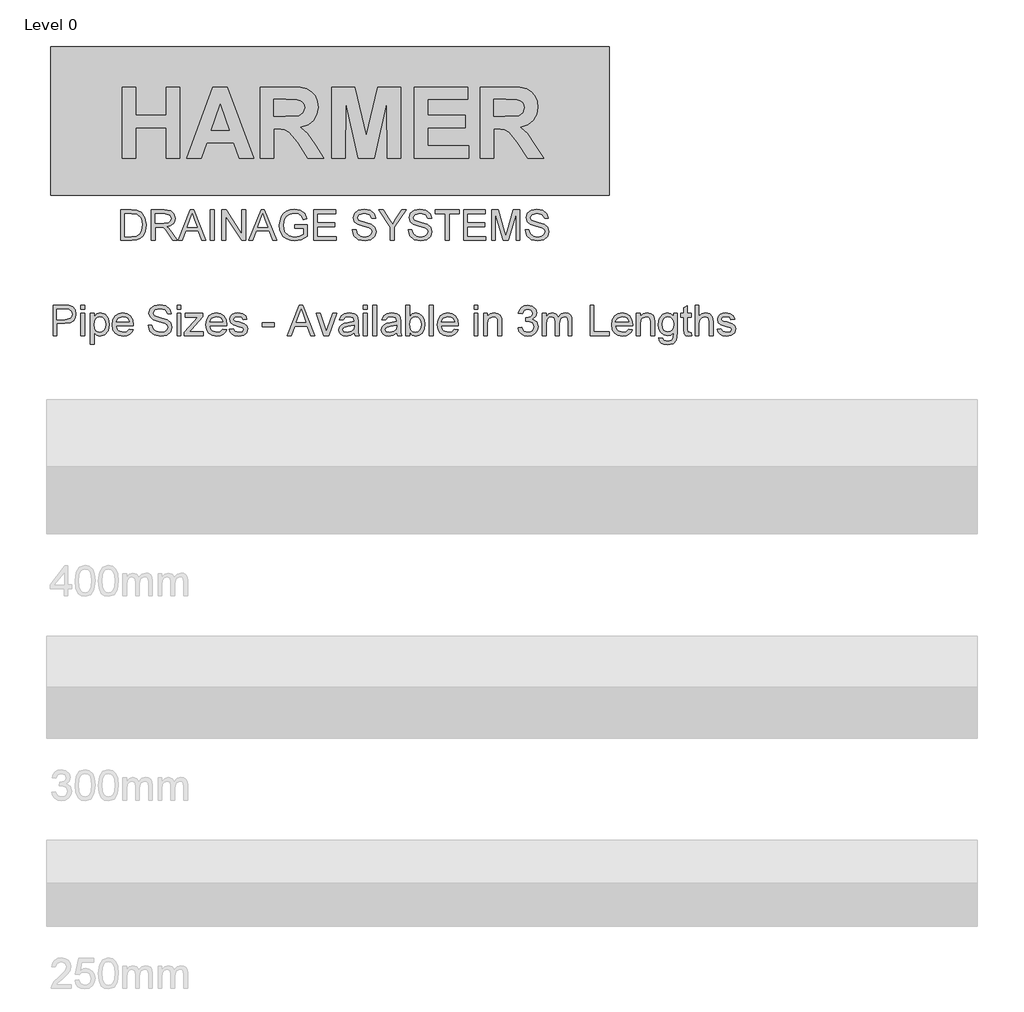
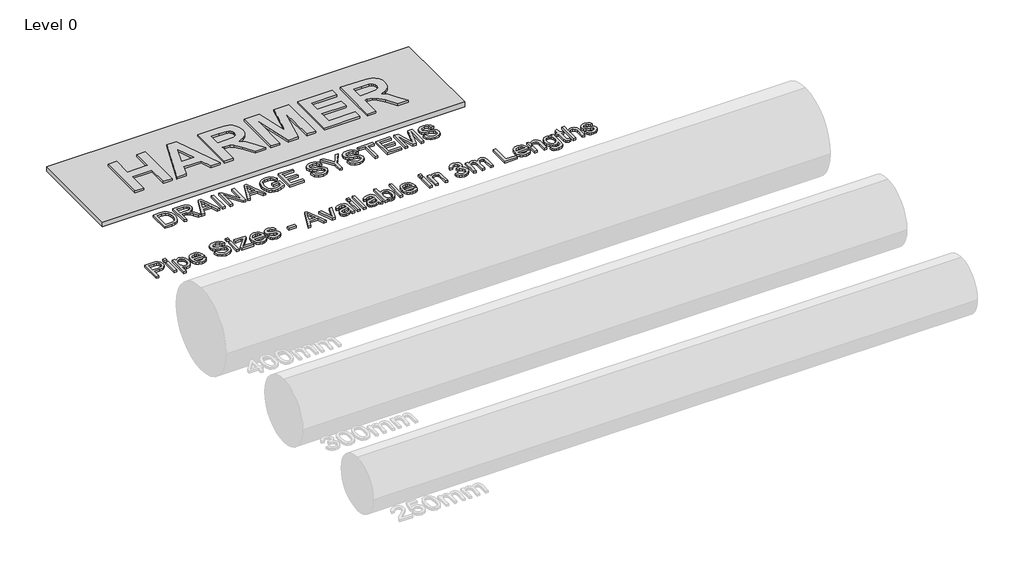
# One storey, part 3 of 3: 4 proxies.
"""IFC4 building model written with IfcOpenShell, lengths in millimetres."""

from ifc_helpers import new_model, si_unit, origin, origin_with_axes, place, context, project, spatial, polyline, outline, extrude, transform, mapped, element, save
from components import generic_models_ec3af60e

model = new_model("IFC4")

# Units and contexts
model_context = context("Model", 3, world=origin())
ifc_project = project(units=[si_unit("LENGTHUNIT", "METRE", prefix="MILLI")], contexts=[model_context])

# Site, building, storey
site = spatial("IfcSite", under=ifc_project)
building = spatial("IfcBuilding", under=site)
storey = spatial("IfcBuildingStorey", under=building, Name="Level 0", Elevation=0.0)

# Proxies
placement = place(None, origin())
generic_models_shape = generic_models_ec3af60e(model_context)
element("IfcBuildingElementProxy", 1, Name="Harmer Logo : Harmer Logo", ObjectType="Harmer Logo : Harmer Logo", at=placement, inside=storey, context=model_context, shape_type="MappedRepresentation", body=[
    mapped(generic_models_shape, transform((0.0, 0.0, 0.0), x_axis=(1.0, 0.0, 0.0), y_axis=(0.0, 1.0, 0.0), z_axis=(0.0, 0.0, 1.0))),
])
element("IfcBuildingElementProxy", 2, Name="100mm Arial", ObjectType="100mm Arial", at=placement, inside=storey, context=model_context, shape_type="SweptSolid", body=[
    extrude(outline(polyline([(-6212.3210968, 2433.2356144), (-6212.3210968, 2531.6971529), (-6175.8307122, 2531.6971529), (-6161.1191737, 2530.7596529), (-6149.1600391, 2526.1562875), (-6141.4076353, 2516.6370567), (-6138.474943, 2503.211576), (-6140.4551112, 2491.6070087), (-6146.395616, 2481.9375375), (-6157.5043901, 2475.4110952), (-6174.989366, 2473.2356144), (-6200.0134045, 2473.2356144), (-6200.0134045, 2433.2356144), (-6212.3210968, 2433.2356144)]), holes=[polyline([(-6200.0134045, 2485.5433067), (-6174.2682122, 2485.5433067), (-6156.1432122, 2490.0625375), (-6152.1227795, 2495.5012394), (-6150.7826353, 2502.7788837), (-6153.943693, 2512.9711914), (-6162.2489814, 2518.5481144), (-6174.5566737, 2519.3894606), (-6200.0134045, 2519.3894606), (-6200.0134045, 2485.5433067)])]), origin_with_axes(), (0.0, 0.0, 1.0), 10.0),
    extrude(outline(polyline([(-6123.0903276, 2433.2356144), (-6123.0903276, 2505.5433067), (-6110.7826353, 2505.5433067), (-6110.7826353, 2433.2356144), (-6123.0903276, 2433.2356144)])), origin_with_axes(), (0.0, 0.0, 1.0), 10.0),
    extrude(outline(polyline([(-6123.0903276, 2519.3894606), (-6123.0903276, 2531.6971529), (-6110.7826353, 2531.6971529), (-6110.7826353, 2519.3894606), (-6123.0903276, 2519.3894606)])), origin_with_axes(), (0.0, 0.0, 1.0), 10.0),
    extrude(outline(polyline([(-6092.3210968, 2405.5433067), (-6092.3210968, 2505.5433067), (-6080.0134045, 2505.5433067), (-6080.0134045, 2493.475999), (-6071.5037891, 2503.680326), (-6060.0134045, 2507.0817683), (-6044.412443, 2502.3221529), (-6034.2201353, 2488.9086914), (-6030.7826353, 2469.9423452), (-6034.6648468, 2450.0024414), (-6045.9388853, 2436.4207106), (-6061.5037891, 2431.6971529), (-6072.2129237, 2434.8582106), (-6080.0134045, 2442.850999), (-6080.0134045, 2405.5433067), (-6092.3210968, 2405.5433067)]), holes=[polyline([(-6080.0134045, 2468.8125375), (-6078.6822747, 2457.7788837), (-6074.6888853, 2450.0625375), (-6068.7964574, 2445.5192683), (-6061.7682122, 2444.0048452), (-6054.6257843, 2445.5733548), (-6048.583116, 2450.2788837), (-6044.4635247, 2458.2776817), (-6043.0903276, 2469.725999), (-6044.4304718, 2480.6995567), (-6048.4509045, 2488.524076), (-6054.334318, 2493.211576), (-6061.2634045, 2494.774076), (-6068.2195343, 2493.1124173), (-6074.3283083, 2488.1274414), (-6078.5921305, 2479.9753981), (-6080.0134045, 2468.8125375)])]), origin_with_axes(), (0.0, 0.0, 1.0), 10.0),
    extrude(outline(polyline([(-5966.3114814, 2454.774076), (-5954.2441737, 2453.2356144), (-5958.5921305, 2444.1430664), (-5965.5302314, 2437.3461914), (-5974.9022266, 2433.1094125), (-5986.551866, 2431.6971529), (-6000.9929718, 2434.1340519), (-6012.1047507, 2441.444749), (-6019.1900872, 2453.1544846), (-6021.551866, 2468.788499), (-6019.1660487, 2484.9483548), (-6012.0085968, 2497.0336914), (-6001.0470583, 2504.569749), (-5987.2489814, 2507.0817683), (-5973.880592, 2504.5757587), (-5963.1985007, 2497.0577298), (-5956.1942939, 2484.9964317), (-5953.8595583, 2468.8606144), (-5953.9316737, 2465.5433067), (-6009.2441737, 2465.5433067), (-6007.1137651, 2456.3305664), (-6002.1648468, 2449.5577298), (-5986.3114814, 2444.0048452), (-5974.2441737, 2446.5769606), (-5966.3114814, 2454.774076)]), holes=[polyline([(-6009.2441737, 2477.850999), (-5966.1672507, 2477.850999), (-5971.0951353, 2489.0048452), (-5978.270616, 2493.3317683), (-5987.2970583, 2494.774076), (-6002.4533083, 2490.1707106), (-6009.2441737, 2477.850999)])]), origin_with_axes(), (0.0, 0.0, 1.0), 10.0),
    extrude(outline(polyline([(-5906.1672507, 2467.0817683), (-5893.8595583, 2467.0817683), (-5889.8932122, 2454.7620567), (-5880.2057122, 2446.9735952), (-5865.4460968, 2444.0048452), (-5852.5855199, 2446.2524414), (-5844.2802314, 2452.430326), (-5841.551866, 2460.6875375), (-5843.5951353, 2468.367826), (-5851.9605199, 2473.9567683), (-5869.881193, 2478.6562875), (-5889.1720583, 2484.725999), (-5899.6408083, 2493.8846529), (-5903.0903276, 2506.1202298), (-5898.8235007, 2520.0505183), (-5886.3595583, 2529.882249), (-5868.114366, 2533.2356144), (-5848.6432122, 2529.725999), (-5835.662443, 2519.413499), (-5830.7826353, 2504.0048452), (-5843.0903276, 2504.0048452), (-5850.0614814, 2516.649076), (-5867.6335968, 2520.9279221), (-5885.2537891, 2516.6971529), (-5890.7826353, 2506.4808067), (-5886.864366, 2497.9471529), (-5866.7682122, 2491.0721529), (-5844.989366, 2484.8942683), (-5833.0783083, 2474.9183067), (-5829.2441737, 2461.0000375), (-5833.6552314, 2446.2764798), (-5846.3475391, 2435.5312875), (-5864.9653276, 2431.6971529), (-5886.9485007, 2435.8317683), (-5900.8547507, 2448.2836914), (-5906.1672507, 2467.0817683)])), origin_with_axes(), (0.0, 0.0, 1.0), 10.0),
    extrude(outline(polyline([(-5812.3210968, 2433.2356144), (-5812.3210968, 2505.5433067), (-5800.0134045, 2505.5433067), (-5800.0134045, 2433.2356144), (-5812.3210968, 2433.2356144)])), origin_with_axes(), (0.0, 0.0, 1.0), 10.0),
    extrude(outline(polyline([(-5812.3210968, 2519.3894606), (-5812.3210968, 2531.6971529), (-5800.0134045, 2531.6971529), (-5800.0134045, 2519.3894606), (-5812.3210968, 2519.3894606)])), origin_with_axes(), (0.0, 0.0, 1.0), 10.0),
    extrude(outline(polyline([(-5789.2441737, 2433.2356144), (-5789.2441737, 2444.8221529), (-5746.7682122, 2493.2356144), (-5759.3403276, 2493.2356144), (-5786.1672507, 2493.2356144), (-5786.1672507, 2505.5433067), (-5729.2441737, 2505.5433067), (-5729.2441737, 2495.086576), (-5766.912443, 2452.1298452), (-5772.6816737, 2445.5433067), (-5758.4509045, 2445.5433067), (-5727.7057122, 2445.5433067), (-5727.7057122, 2433.2356144), (-5789.2441737, 2433.2356144)])), origin_with_axes(), (0.0, 0.0, 1.0), 10.0),
    extrude(outline(polyline([(-5664.7730199, 2454.774076), (-5652.7057122, 2453.2356144), (-5657.0536689, 2444.1430664), (-5663.9917699, 2437.3461914), (-5673.3637651, 2433.1094125), (-5685.0134045, 2431.6971529), (-5699.4545103, 2434.1340519), (-5710.5662891, 2441.444749), (-5717.6516257, 2453.1544846), (-5720.0134045, 2468.788499), (-5717.6275872, 2484.9483548), (-5710.4701353, 2497.0336914), (-5699.5085968, 2504.569749), (-5685.7105199, 2507.0817683), (-5672.3421305, 2504.5757587), (-5661.6600391, 2497.0577298), (-5654.6558324, 2484.9964317), (-5652.3210968, 2468.8606144), (-5652.3932122, 2465.5433067), (-5707.7057122, 2465.5433067), (-5705.5753035, 2456.3305664), (-5700.6263853, 2449.5577298), (-5684.7730199, 2444.0048452), (-5672.7057122, 2446.5769606), (-5664.7730199, 2454.774076)]), holes=[polyline([(-5707.7057122, 2477.850999), (-5664.6287891, 2477.850999), (-5669.5566737, 2489.0048452), (-5676.7321545, 2493.3317683), (-5685.7585968, 2494.774076), (-5700.9148468, 2490.1707106), (-5707.7057122, 2477.850999)])]), origin_with_axes(), (0.0, 0.0, 1.0), 10.0),
    extrude(outline(polyline([(-5644.6287891, 2454.774076), (-5632.3210968, 2456.3125375), (-5626.6239814, 2447.1779221), (-5613.5710968, 2444.0048452), (-5601.0230199, 2446.913499), (-5596.9364814, 2453.7404221), (-5601.0470583, 2459.2692683), (-5613.7153276, 2462.7788837), (-5632.2489814, 2468.8005183), (-5640.3379237, 2475.8317683), (-5643.0903276, 2485.7596529), (-5640.8787891, 2494.930326), (-5634.8451353, 2501.9375375), (-5627.020616, 2505.5793644), (-5616.4316737, 2507.0817683), (-5601.4557122, 2504.6659029), (-5591.9364814, 2498.1274414), (-5587.7057122, 2487.0817683), (-5600.0134045, 2485.5433067), (-5604.6408083, 2492.3341721), (-5615.4701353, 2494.774076), (-5627.2489814, 2492.4423452), (-5630.7826353, 2487.0096529), (-5629.3162891, 2483.4279221), (-5624.724943, 2480.711576), (-5614.1239814, 2478.0913837), (-5596.0590776, 2472.2981144), (-5587.6696545, 2465.7356144), (-5584.6287891, 2455.038499), (-5588.1985007, 2443.2596529), (-5598.4989814, 2434.7139798), (-5613.739366, 2431.6971529), (-5626.1492218, 2433.1514798), (-5635.2057122, 2437.5144606), (-5641.2513853, 2444.7380183), (-5644.6287891, 2454.774076)])), origin_with_axes(), (0.0, 0.0, 1.0), 10.0),
    extrude(outline(polyline([(-5538.474943, 2462.4663837), (-5538.474943, 2474.774076), (-5500.0134045, 2474.774076), (-5500.0134045, 2462.4663837), (-5538.474943, 2462.4663837)])), origin_with_axes(), (0.0, 0.0, 1.0), 10.0),
    extrude(outline(polyline([(-5457.6335968, 2433.2356144), (-5418.3307122, 2531.6971529), (-5407.849943, 2531.6971529), (-5368.5470583, 2433.2356144), (-5381.551866, 2433.2356144), (-5392.8259045, 2464.0048452), (-5433.3787891, 2464.0048452), (-5444.6287891, 2433.2356144), (-5457.6335968, 2433.2356144)]), holes=[polyline([(-5428.8595583, 2476.3125375), (-5397.3210968, 2476.3125375), (-5406.1912891, 2500.5192683), (-5413.0903276, 2519.3894606), (-5419.2201353, 2502.6346529), (-5428.8595583, 2476.3125375)])]), origin_with_axes(), (0.0, 0.0, 1.0), 10.0),
    extrude(outline(polyline([(-5339.1960968, 2433.2356144), (-5364.6287891, 2505.5433067), (-5351.599943, 2505.5433067), (-5336.1912891, 2462.225999), (-5331.551866, 2447.6586914), (-5327.0085968, 2461.4086914), (-5311.5037891, 2505.5433067), (-5298.474943, 2505.5433067), (-5323.5951353, 2433.2356144), (-5339.1960968, 2433.2356144)])), origin_with_axes(), (0.0, 0.0, 1.0), 10.0),
    extrude(outline(polyline([(-5241.551866, 2442.4663837), (-5253.4869622, 2434.1250375), (-5266.6720583, 2431.6971529), (-5276.9575151, 2433.1574894), (-5284.5446545, 2437.538499), (-5289.2231401, 2444.1911433), (-5290.7826353, 2452.4663837), (-5288.426866, 2462.2019606), (-5282.2369622, 2469.2692683), (-5273.6191737, 2473.3077298), (-5262.9701353, 2475.1586914), (-5241.6239814, 2479.3894606), (-5241.551866, 2482.1298452), (-5244.9412891, 2491.2163837), (-5258.5470583, 2494.774076), (-5270.9989814, 2492.4062875), (-5276.9364814, 2484.0048452), (-5289.2441737, 2485.5433067), (-5283.9196545, 2497.5625375), (-5273.1985007, 2504.6058067), (-5256.9605199, 2507.0817683), (-5242.0446545, 2504.8942683), (-5233.6191737, 2499.4014798), (-5229.8451353, 2491.0481144), (-5229.2441737, 2480.2788837), (-5229.2441737, 2464.9663837), (-5228.6191737, 2443.5841721), (-5226.1672507, 2433.2356144), (-5238.474943, 2433.2356144), (-5241.551866, 2442.4663837)]), holes=[polyline([(-5241.551866, 2467.0817683), (-5261.4076353, 2463.3077298), (-5271.9965776, 2461.3125375), (-5276.7922507, 2458.0673452), (-5278.474943, 2453.3317683), (-5274.8090776, 2446.6731144), (-5264.051866, 2444.0048452), (-5251.599943, 2446.9495567), (-5243.5710968, 2454.0769606), (-5241.6239814, 2463.5961914), (-5241.551866, 2467.0817683)])]), origin_with_axes(), (0.0, 0.0, 1.0), 10.0),
    extrude(outline(polyline([(-5212.3210968, 2433.2356144), (-5212.3210968, 2505.5433067), (-5200.0134045, 2505.5433067), (-5200.0134045, 2433.2356144), (-5212.3210968, 2433.2356144)])), origin_with_axes(), (0.0, 0.0, 1.0), 10.0),
    extrude(outline(polyline([(-5212.3210968, 2519.3894606), (-5212.3210968, 2531.6971529), (-5200.0134045, 2531.6971529), (-5200.0134045, 2519.3894606), (-5212.3210968, 2519.3894606)])), origin_with_axes(), (0.0, 0.0, 1.0), 10.0),
    extrude(outline(polyline([(-5181.551866, 2433.2356144), (-5181.551866, 2531.6971529), (-5169.2441737, 2531.6971529), (-5169.2441737, 2433.2356144), (-5181.551866, 2433.2356144)])), origin_with_axes(), (0.0, 0.0, 1.0), 10.0),
    extrude(outline(polyline([(-5104.6287891, 2442.4663837), (-5116.5638853, 2434.1250375), (-5129.7489814, 2431.6971529), (-5140.0344382, 2433.1574894), (-5147.6215776, 2437.538499), (-5152.3000632, 2444.1911433), (-5153.8595583, 2452.4663837), (-5151.5037891, 2462.2019606), (-5145.3138853, 2469.2692683), (-5136.6960968, 2473.3077298), (-5126.0470583, 2475.1586914), (-5104.7009045, 2479.3894606), (-5104.6287891, 2482.1298452), (-5108.0182122, 2491.2163837), (-5121.6239814, 2494.774076), (-5134.0759045, 2492.4062875), (-5140.0134045, 2484.0048452), (-5152.3210968, 2485.5433067), (-5146.9965776, 2497.5625375), (-5136.2754237, 2504.6058067), (-5120.037443, 2507.0817683), (-5105.1215776, 2504.8942683), (-5096.6960968, 2499.4014798), (-5092.9220583, 2491.0481144), (-5092.3210968, 2480.2788837), (-5092.3210968, 2464.9663837), (-5091.6960968, 2443.5841721), (-5089.2441737, 2433.2356144), (-5101.551866, 2433.2356144), (-5104.6287891, 2442.4663837)]), holes=[polyline([(-5104.6287891, 2467.0817683), (-5124.4845583, 2463.3077298), (-5135.0735007, 2461.3125375), (-5139.8691737, 2458.0673452), (-5141.551866, 2453.3317683), (-5137.8860007, 2446.6731144), (-5127.1287891, 2444.0048452), (-5114.676866, 2446.9495567), (-5106.6480199, 2454.0769606), (-5104.7009045, 2463.5961914), (-5104.6287891, 2467.0817683)])]), origin_with_axes(), (0.0, 0.0, 1.0), 10.0),
    extrude(outline(polyline([(-5063.0903276, 2433.2356144), (-5075.3980199, 2433.2356144), (-5075.3980199, 2531.6971529), (-5063.0903276, 2531.6971529), (-5063.0903276, 2495.1827298), (-5054.4725391, 2504.1070087), (-5043.7634045, 2507.0817683), (-5031.4316737, 2504.4014798), (-5021.864366, 2496.8654221), (-5015.9869622, 2485.1466721), (-5013.8595583, 2470.4711914), (-5016.0620824, 2454.0409029), (-5022.6696545, 2441.8173452), (-5032.3661689, 2434.227201), (-5043.8355199, 2431.6971529), (-5054.7790295, 2434.960374), (-5063.0903276, 2444.7500375), (-5063.0903276, 2433.2356144)]), holes=[polyline([(-5063.0903276, 2469.8942683), (-5059.724943, 2452.6827298), (-5053.2766257, 2446.1743164), (-5044.8932122, 2444.0048452), (-5037.7898468, 2445.6034029), (-5031.7201353, 2450.399076), (-5027.5554718, 2458.3618164), (-5026.1672507, 2469.461576), (-5027.4983805, 2480.7235952), (-5031.4917699, 2488.5961914), (-5037.3721785, 2493.2296048), (-5044.364366, 2494.774076), (-5051.4677314, 2493.1755183), (-5057.537443, 2488.3798452), (-5061.7021064, 2480.5613356), (-5063.0903276, 2469.8942683)])]), origin_with_axes(), (0.0, 0.0, 1.0), 10.0),
    extrude(outline(polyline([(-5000.0134045, 2433.2356144), (-5000.0134045, 2531.6971529), (-4987.7057122, 2531.6971529), (-4987.7057122, 2433.2356144), (-5000.0134045, 2433.2356144)])), origin_with_axes(), (0.0, 0.0, 1.0), 10.0),
    extrude(outline(polyline([(-4918.6191737, 2454.774076), (-4906.551866, 2453.2356144), (-4910.8998228, 2444.1430664), (-4917.8379237, 2437.3461914), (-4927.2099189, 2433.1094125), (-4938.8595583, 2431.6971529), (-4953.3006641, 2434.1340519), (-4964.412443, 2441.444749), (-4971.4977795, 2453.1544846), (-4973.8595583, 2468.788499), (-4971.473741, 2484.9483548), (-4964.3162891, 2497.0336914), (-4953.3547507, 2504.569749), (-4939.5566737, 2507.0817683), (-4926.1882843, 2504.5757587), (-4915.506193, 2497.0577298), (-4908.5019862, 2484.9964317), (-4906.1672507, 2468.8606144), (-4906.239366, 2465.5433067), (-4961.551866, 2465.5433067), (-4959.4214574, 2456.3305664), (-4954.4725391, 2449.5577298), (-4938.6191737, 2444.0048452), (-4926.551866, 2446.5769606), (-4918.6191737, 2454.774076)]), holes=[polyline([(-4961.551866, 2477.850999), (-4918.474943, 2477.850999), (-4923.4028276, 2489.0048452), (-4930.5783083, 2493.3317683), (-4939.6047507, 2494.774076), (-4954.7610007, 2490.1707106), (-4961.551866, 2477.850999)])]), origin_with_axes(), (0.0, 0.0, 1.0), 10.0),
    extrude(outline(polyline([(-4855.3980199, 2433.2356144), (-4855.3980199, 2505.5433067), (-4843.0903276, 2505.5433067), (-4843.0903276, 2433.2356144), (-4855.3980199, 2433.2356144)])), origin_with_axes(), (0.0, 0.0, 1.0), 10.0),
    extrude(outline(polyline([(-4855.3980199, 2519.3894606), (-4855.3980199, 2531.6971529), (-4843.0903276, 2531.6971529), (-4843.0903276, 2519.3894606), (-4855.3980199, 2519.3894606)])), origin_with_axes(), (0.0, 0.0, 1.0), 10.0),
    extrude(outline(polyline([(-4824.6287891, 2433.2356144), (-4824.6287891, 2505.5433067), (-4812.3210968, 2505.5433067), (-4812.3210968, 2495.4471529), (-4802.9100391, 2504.1731144), (-4790.0614814, 2507.0817683), (-4778.4388853, 2504.7380183), (-4770.506193, 2498.5841721), (-4766.8162891, 2489.5336914), (-4766.1672507, 2477.6346529), (-4766.1672507, 2433.2356144), (-4778.474943, 2433.2356144), (-4778.474943, 2475.975999), (-4779.8932122, 2486.8654221), (-4784.9052314, 2492.6226337), (-4793.3547507, 2494.774076), (-4806.708116, 2489.9423452), (-4810.9178516, 2482.9411433), (-4812.3210968, 2471.600999), (-4812.3210968, 2433.2356144), (-4824.6287891, 2433.2356144)])), origin_with_axes(), (0.0, 0.0, 1.0), 10.0),
    extrude(outline(polyline([(-4713.8595583, 2459.3894606), (-4701.551866, 2460.9279221), (-4694.7610007, 2447.9711914), (-4682.0566737, 2444.0048452), (-4673.6191737, 2445.3690279), (-4667.1047507, 2449.461576), (-4661.551866, 2462.9711914), (-4667.0566737, 2475.6995567), (-4681.0470583, 2480.7356144), (-4689.676866, 2479.3894606), (-4688.3066737, 2491.6971529), (-4686.3355199, 2491.5529221), (-4672.3691737, 2495.086576), (-4667.7177314, 2499.569749), (-4666.1672507, 2505.9519606), (-4670.662443, 2515.5793644), (-4682.2489814, 2519.3894606), (-4693.9797507, 2515.5433067), (-4700.0134045, 2504.0048452), (-4712.3210968, 2505.5433067), (-4708.6972987, 2516.5949894), (-4702.2489814, 2524.8461914), (-4693.426866, 2529.9844125), (-4682.6816737, 2531.6971529), (-4667.8379237, 2528.319749), (-4657.4533083, 2519.0889798), (-4653.8595583, 2506.6731144), (-4657.2730199, 2495.3269606), (-4667.3691737, 2487.1779221), (-4653.9557122, 2478.7644606), (-4649.2441737, 2462.7548452), (-4651.599943, 2450.7596529), (-4658.6672507, 2440.7356144), (-4669.334318, 2433.9567683), (-4682.489366, 2431.6971529), (-4694.3884045, 2433.6262394), (-4704.0759045, 2439.413499), (-4710.8126833, 2448.2656625), (-4713.8595583, 2459.3894606)])), origin_with_axes(), (0.0, 0.0, 1.0), 10.0),
    extrude(outline(polyline([(-4635.3980199, 2433.2356144), (-4635.3980199, 2505.5433067), (-4623.0903276, 2505.5433067), (-4623.0903276, 2493.6442683), (-4614.6287891, 2503.3918644), (-4602.5855199, 2507.0817683), (-4590.2537891, 2503.319749), (-4583.474943, 2492.7788837), (-4573.8715776, 2503.5060471), (-4561.7441737, 2507.0817683), (-4552.4923708, 2505.5943885), (-4545.6504237, 2501.132249), (-4541.4226593, 2493.5751577), (-4540.0134045, 2482.8029221), (-4540.0134045, 2433.2356144), (-4552.3210968, 2433.2356144), (-4552.3210968, 2477.5144606), (-4553.4629237, 2487.7909029), (-4557.5975391, 2492.850999), (-4564.6287891, 2494.774076), (-4576.7321545, 2489.8461914), (-4581.551866, 2474.0529221), (-4581.551866, 2433.2356144), (-4593.8595583, 2433.2356144), (-4593.8595583, 2478.8846529), (-4596.708116, 2490.8077298), (-4606.0470583, 2494.774076), (-4615.1576353, 2492.1298452), (-4621.2153276, 2484.3894606), (-4623.0903276, 2469.7019606), (-4623.0903276, 2433.2356144), (-4635.3980199, 2433.2356144)])), origin_with_axes(), (0.0, 0.0, 1.0), 10.0),
    extrude(outline(polyline([(-4481.551866, 2433.2356144), (-4481.551866, 2531.6971529), (-4469.2441737, 2531.6971529), (-4469.2441737, 2445.5433067), (-4420.0134045, 2445.5433067), (-4420.0134045, 2433.2356144), (-4481.551866, 2433.2356144)])), origin_with_axes(), (0.0, 0.0, 1.0), 10.0),
    extrude(outline(polyline([(-4357.0807122, 2454.774076), (-4345.0134045, 2453.2356144), (-4349.3613612, 2444.1430664), (-4356.2994622, 2437.3461914), (-4365.6714574, 2433.1094125), (-4377.3210968, 2431.6971529), (-4391.7622026, 2434.1340519), (-4402.8739814, 2441.444749), (-4409.959318, 2453.1544846), (-4412.3210968, 2468.788499), (-4409.9352795, 2484.9483548), (-4402.7778276, 2497.0336914), (-4391.8162891, 2504.569749), (-4378.0182122, 2507.0817683), (-4364.6498228, 2504.5757587), (-4353.9677314, 2497.0577298), (-4346.9635247, 2484.9964317), (-4344.6287891, 2468.8606144), (-4344.7009045, 2465.5433067), (-4400.0134045, 2465.5433067), (-4397.8829958, 2456.3305664), (-4392.9340776, 2449.5577298), (-4377.0807122, 2444.0048452), (-4365.0134045, 2446.5769606), (-4357.0807122, 2454.774076)]), holes=[polyline([(-4400.0134045, 2477.850999), (-4356.9364814, 2477.850999), (-4361.864366, 2489.0048452), (-4369.0398468, 2493.3317683), (-4378.0662891, 2494.774076), (-4393.2225391, 2490.1707106), (-4400.0134045, 2477.850999)])]), origin_with_axes(), (0.0, 0.0, 1.0), 10.0),
    extrude(outline(polyline([(-4332.3210968, 2433.2356144), (-4332.3210968, 2505.5433067), (-4320.0134045, 2505.5433067), (-4320.0134045, 2495.4471529), (-4310.6023468, 2504.1731144), (-4297.7537891, 2507.0817683), (-4286.131193, 2504.7380183), (-4278.1985007, 2498.5841721), (-4274.5085968, 2489.5336914), (-4273.8595583, 2477.6346529), (-4273.8595583, 2433.2356144), (-4286.1672507, 2433.2356144), (-4286.1672507, 2475.975999), (-4287.5855199, 2486.8654221), (-4292.5975391, 2492.6226337), (-4301.0470583, 2494.774076), (-4314.4004237, 2489.9423452), (-4318.6101593, 2482.9411433), (-4320.0134045, 2471.600999), (-4320.0134045, 2433.2356144), (-4332.3210968, 2433.2356144)])), origin_with_axes(), (0.0, 0.0, 1.0), 10.0),
    extrude(outline(polyline([(-4260.0134045, 2427.0817683), (-4247.7057122, 2425.5433067), (-4243.7153276, 2419.0529221), (-4231.7682122, 2416.3125375), (-4219.1720583, 2419.413499), (-4213.162443, 2428.1154221), (-4212.3210968, 2442.4663837), (-4220.9869622, 2435.5433067), (-4231.551866, 2433.2356144), (-4244.2411689, 2435.9219125), (-4253.7033083, 2443.9808067), (-4259.5897266, 2455.7957106), (-4261.551866, 2469.7500375), (-4258.0302314, 2488.8245567), (-4247.8379237, 2502.3221529), (-4232.1528276, 2507.0817683), (-4221.1732603, 2504.3894606), (-4212.3210968, 2496.3125375), (-4212.3210968, 2505.5433067), (-4200.0134045, 2505.5433067), (-4200.0134045, 2443.1154221), (-4203.3787891, 2419.2091721), (-4214.0398468, 2408.0913837), (-4232.0085968, 2404.0048452), (-4243.4599189, 2405.4441481), (-4252.4773468, 2409.7620567), (-4258.2616016, 2416.9705904), (-4260.0134045, 2427.0817683)]), holes=[polyline([(-4249.2441737, 2470.5913837), (-4247.9310728, 2459.3023212), (-4243.9917699, 2451.5409029), (-4238.0692939, 2447.0427058), (-4230.8066737, 2445.5433067), (-4223.5981401, 2447.0336914), (-4217.645616, 2451.5048452), (-4213.6522266, 2459.1671048), (-4212.3210968, 2470.2308067), (-4213.6912891, 2480.9008789), (-4217.801866, 2488.5841721), (-4223.8415295, 2493.2266), (-4230.9989814, 2494.774076), (-4238.0272266, 2493.2506385), (-4243.9196545, 2488.680326), (-4247.9130439, 2481.1112154), (-4249.2441737, 2470.5913837)])]), origin_with_axes(), (0.0, 0.0, 1.0), 10.0),
    extrude(outline(polyline([(-4155.3980199, 2443.5000375), (-4153.8595583, 2432.8750375), (-4163.0662891, 2431.6971529), (-4173.3787891, 2433.7404221), (-4178.5230199, 2439.100999), (-4180.0134045, 2453.0673452), (-4180.0134045, 2493.2356144), (-4189.2441737, 2493.2356144), (-4189.2441737, 2505.5433067), (-4180.0134045, 2505.5433067), (-4180.0134045, 2523.1154221), (-4167.7057122, 2530.350999), (-4167.7057122, 2505.5433067), (-4155.3980199, 2505.5433067), (-4155.3980199, 2493.2356144), (-4167.7057122, 2493.2356144), (-4167.7057122, 2453.4279221), (-4167.0566737, 2447.0817683), (-4164.9533083, 2444.8341721), (-4160.7585968, 2444.0048452), (-4155.3980199, 2443.5000375)])), origin_with_axes(), (0.0, 0.0, 1.0), 10.0),
    extrude(outline(polyline([(-4143.0903276, 2433.2356144), (-4143.0903276, 2531.6971529), (-4130.7826353, 2531.6971529), (-4130.7826353, 2495.4952298), (-4121.1852795, 2504.1851337), (-4109.364366, 2507.0817683), (-4095.5422507, 2503.9207106), (-4087.1528276, 2495.1827298), (-4084.6287891, 2479.0048452), (-4084.6287891, 2433.2356144), (-4096.9364814, 2433.2356144), (-4096.9364814, 2477.7308067), (-4100.8547507, 2490.711576), (-4111.9605199, 2494.774076), (-4122.0446545, 2492.0336914), (-4128.7754237, 2484.6058067), (-4130.7826353, 2471.649076), (-4130.7826353, 2433.2356144), (-4143.0903276, 2433.2356144)])), origin_with_axes(), (0.0, 0.0, 1.0), 10.0),
    extrude(outline(polyline([(-4072.3210968, 2454.774076), (-4060.0134045, 2456.3125375), (-4054.3162891, 2447.1779221), (-4041.2634045, 2444.0048452), (-4028.7153276, 2446.913499), (-4024.6287891, 2453.7404221), (-4028.739366, 2459.2692683), (-4041.4076353, 2462.7788837), (-4059.9412891, 2468.8005183), (-4068.0302314, 2475.8317683), (-4070.7826353, 2485.7596529), (-4068.5710968, 2494.930326), (-4062.537443, 2501.9375375), (-4054.7129237, 2505.5793644), (-4044.1239814, 2507.0817683), (-4029.1480199, 2504.6659029), (-4019.6287891, 2498.1274414), (-4015.3980199, 2487.0817683), (-4027.7057122, 2485.5433067), (-4032.333116, 2492.3341721), (-4043.162443, 2494.774076), (-4054.9412891, 2492.4423452), (-4058.474943, 2487.0096529), (-4057.0085968, 2483.4279221), (-4052.4172507, 2480.711576), (-4041.8162891, 2478.0913837), (-4023.7513853, 2472.2981144), (-4015.3619622, 2465.7356144), (-4012.3210968, 2455.038499), (-4015.8908083, 2443.2596529), (-4026.1912891, 2434.7139798), (-4041.4316737, 2431.6971529), (-4053.8415295, 2433.1514798), (-4062.8980199, 2437.5144606), (-4068.943693, 2444.7380183), (-4072.3210968, 2454.774076)])), origin_with_axes(), (0.0, 0.0, 1.0), 10.0),
])
element("IfcBuildingElementProxy", 3, Name="100mm Arial", ObjectType="100mm Arial", at=placement, inside=storey, context=model_context, shape_type="SweptSolid", body=[
    extrude(outline(polyline([(-5994.1559487, 2740.4494359), (-5994.1559487, 2838.9109743), (-5960.1896026, 2838.9109743), (-5942.6174872, 2837.4927051), (-5928.1463333, 2830.4494359), (-5916.4876795, 2813.6225128), (-5912.6174872, 2790.2090512), (-5915.2376795, 2770.3412628), (-5921.9684487, 2756.0023205), (-5930.9588333, 2747.072032), (-5942.7256603, 2742.1321282), (-5958.5549872, 2740.4494359), (-5994.1559487, 2740.4494359)]), holes=[polyline([(-5981.8482564, 2752.7571282), (-5960.0694103, 2752.7571282), (-5944.2280641, 2754.5359743), (-5935.0934487, 2759.5600128), (-5927.605468, 2771.7835705), (-5924.9251795, 2790.4013589), (-5926.2382805, 2803.8148205), (-5930.1775833, 2813.7186666), (-5942.9540257, 2824.6321282), (-5960.4059487, 2826.603282), (-5981.8482564, 2826.603282), (-5981.8482564, 2752.7571282)])]), origin_with_axes(), (0.0, 0.0, 1.0), 10.0),
    extrude(outline(polyline([(-5895.6944103, 2740.4494359), (-5895.6944103, 2838.9109743), (-5853.2665257, 2838.9109743), (-5833.5670064, 2836.2547243), (-5822.7977757, 2826.8556859), (-5818.7713333, 2811.9638589), (-5820.4390016, 2802.2643397), (-5825.4420064, 2794.2234743), (-5833.9305882, 2788.3280416), (-5846.0549872, 2785.0648205), (-5839.0597949, 2779.8003974), (-5829.0838333, 2767.1321282), (-5812.6655641, 2740.4494359), (-5826.9684487, 2740.4494359), (-5839.7809487, 2760.8580897), (-5849.0357564, 2774.3677051), (-5855.5381603, 2780.7499166), (-5861.3915257, 2783.0936666), (-5868.5309487, 2783.5263589), (-5883.386718, 2783.5263589), (-5883.386718, 2740.4494359), (-5895.6944103, 2740.4494359)]), holes=[polyline([(-5883.386718, 2795.8340512), (-5855.838641, 2795.8340512), (-5841.7881603, 2797.5768397), (-5833.807391, 2803.1537628), (-5831.0790257, 2811.5071282), (-5836.2833526, 2822.3484743), (-5852.7376795, 2826.603282), (-5883.386718, 2826.603282), (-5883.386718, 2795.8340512)])]), origin_with_axes(), (0.0, 0.0, 1.0), 10.0),
    extrude(outline(polyline([(-5808.699218, 2740.4494359), (-5769.3963333, 2838.9109743), (-5758.9155641, 2838.9109743), (-5719.6126795, 2740.4494359), (-5732.6174872, 2740.4494359), (-5743.8915257, 2771.2186666), (-5784.4444103, 2771.2186666), (-5795.6944103, 2740.4494359), (-5808.699218, 2740.4494359)]), holes=[polyline([(-5779.9251795, 2783.5263589), (-5748.386718, 2783.5263589), (-5757.2569103, 2807.7330897), (-5764.1559487, 2826.603282), (-5770.2857564, 2809.8484743), (-5779.9251795, 2783.5263589)])]), origin_with_axes(), (0.0, 0.0, 1.0), 10.0),
    extrude(outline(polyline([(-5704.9251795, 2740.4494359), (-5704.9251795, 2838.9109743), (-5692.6174872, 2838.9109743), (-5692.6174872, 2740.4494359), (-5704.9251795, 2740.4494359)])), origin_with_axes(), (0.0, 0.0, 1.0), 10.0),
    extrude(outline(polyline([(-5668.0021026, 2740.4494359), (-5668.0021026, 2838.9109743), (-5654.8290257, 2838.9109743), (-5603.386718, 2760.9061666), (-5603.386718, 2838.9109743), (-5591.0790257, 2838.9109743), (-5591.0790257, 2740.4494359), (-5604.2521026, 2740.4494359), (-5655.6944103, 2818.478282), (-5655.6944103, 2740.4494359), (-5668.0021026, 2740.4494359)])), origin_with_axes(), (0.0, 0.0, 1.0), 10.0),
    extrude(outline(polyline([(-5581.0069103, 2740.4494359), (-5541.7040257, 2838.9109743), (-5531.2232564, 2838.9109743), (-5491.9203718, 2740.4494359), (-5504.9251795, 2740.4494359), (-5516.199218, 2771.2186666), (-5556.7521026, 2771.2186666), (-5568.0021026, 2740.4494359), (-5581.0069103, 2740.4494359)]), holes=[polyline([(-5552.2328718, 2783.5263589), (-5520.6944103, 2783.5263589), (-5529.5646026, 2807.7330897), (-5536.463641, 2826.603282), (-5542.5934487, 2809.8484743), (-5552.2328718, 2783.5263589)])]), origin_with_axes(), (0.0, 0.0, 1.0), 10.0),
    extrude(outline(polyline([(-5432.6174872, 2778.9109743), (-5432.6174872, 2791.2186666), (-5392.6174872, 2791.2186666), (-5392.6174872, 2754.415782), (-5412.3650833, 2742.8052051), (-5433.2424872, 2738.9109743), (-5447.0495785, 2740.4584503), (-5459.5285449, 2745.1008782), (-5469.8951314, 2752.6759984), (-5477.3650833, 2763.0215512), (-5481.8813093, 2775.431407), (-5483.386718, 2789.1994359), (-5477.3891218, 2815.9662628), (-5470.0784247, 2826.7865753), (-5460.1415257, 2834.415782), (-5448.0381603, 2838.9410224), (-5434.2280641, 2840.4494359), (-5414.9732564, 2836.9518397), (-5401.4756603, 2827.2162628), (-5394.0357564, 2810.9302051), (-5405.3819103, 2807.7330897), (-5410.994891, 2819.1153012), (-5420.5862372, 2825.6778012), (-5434.4203718, 2828.1417436), (-5450.1775833, 2825.4854936), (-5460.8987372, 2818.5143397), (-5467.2328718, 2809.0311666), (-5471.0790257, 2789.7042436), (-5466.4516218, 2768.2499166), (-5452.9900833, 2755.4133782), (-5434.2280641, 2751.2186666), (-5417.3891218, 2754.3797243), (-5404.9251795, 2761.1225128), (-5404.9251795, 2778.9109743), (-5432.6174872, 2778.9109743)])), origin_with_axes(), (0.0, 0.0, 1.0), 10.0),
    extrude(outline(polyline([(-5372.6174872, 2740.4494359), (-5372.6174872, 2838.9109743), (-5301.8482564, 2838.9109743), (-5301.8482564, 2826.603282), (-5360.3097949, 2826.603282), (-5360.3097949, 2797.3725128), (-5304.9251795, 2797.3725128), (-5304.9251795, 2785.0648205), (-5360.3097949, 2785.0648205), (-5360.3097949, 2752.7571282), (-5300.3097949, 2752.7571282), (-5300.3097949, 2740.4494359), (-5372.6174872, 2740.4494359)])), origin_with_axes(), (0.0, 0.0, 1.0), 10.0),
    extrude(outline(polyline([(-5248.0021026, 2774.2955897), (-5235.6944103, 2774.2955897), (-5231.7280641, 2761.9758782), (-5222.0405641, 2754.1874166), (-5207.2809487, 2751.2186666), (-5194.4203718, 2753.4662628), (-5186.1150833, 2759.6441474), (-5183.386718, 2767.9013589), (-5185.4299872, 2775.5816474), (-5193.7953718, 2781.1705897), (-5211.7160449, 2785.8701089), (-5231.0069103, 2791.9398205), (-5241.4756603, 2801.0984743), (-5244.9251795, 2813.3340512), (-5240.6583526, 2827.2643397), (-5228.1944103, 2837.0960705), (-5209.949218, 2840.4494359), (-5190.4780641, 2836.9398205), (-5177.4972949, 2826.6273205), (-5172.6174872, 2811.2186666), (-5184.9251795, 2811.2186666), (-5191.8963333, 2823.8628974), (-5209.4684487, 2828.1417436), (-5227.088641, 2823.9109743), (-5232.6174872, 2813.6946282), (-5228.699218, 2805.1609743), (-5208.6030641, 2798.2859743), (-5186.824218, 2792.1080897), (-5174.9131603, 2782.1321282), (-5171.0790257, 2768.2138589), (-5175.4900833, 2753.4903012), (-5188.182391, 2742.7451089), (-5206.8001795, 2738.9109743), (-5228.7833526, 2743.0455897), (-5242.6896026, 2755.4975128), (-5248.0021026, 2774.2955897)])), origin_with_axes(), (0.0, 0.0, 1.0), 10.0),
    extrude(outline(polyline([(-5124.9251795, 2740.4494359), (-5124.9251795, 2782.1561666), (-5163.386718, 2838.9109743), (-5148.8674872, 2838.9109743), (-5128.338641, 2808.5984743), (-5117.8338333, 2793.1417436), (-5107.3049872, 2809.7042436), (-5088.6751795, 2838.9109743), (-5074.1559487, 2838.9109743), (-5112.6174872, 2782.1561666), (-5112.6174872, 2740.4494359), (-5124.9251795, 2740.4494359)])), origin_with_axes(), (0.0, 0.0, 1.0), 10.0),
    extrude(outline(polyline([(-5068.0021026, 2774.2955897), (-5055.6944103, 2774.2955897), (-5051.7280641, 2761.9758782), (-5042.0405641, 2754.1874166), (-5027.2809487, 2751.2186666), (-5014.4203718, 2753.4662628), (-5006.1150833, 2759.6441474), (-5003.386718, 2767.9013589), (-5005.4299872, 2775.5816474), (-5013.7953718, 2781.1705897), (-5031.7160449, 2785.8701089), (-5051.0069103, 2791.9398205), (-5061.4756603, 2801.0984743), (-5064.9251795, 2813.3340512), (-5060.6583526, 2827.2643397), (-5048.1944103, 2837.0960705), (-5029.949218, 2840.4494359), (-5010.4780641, 2836.9398205), (-4997.4972949, 2826.6273205), (-4992.6174872, 2811.2186666), (-5004.9251795, 2811.2186666), (-5011.8963333, 2823.8628974), (-5029.4684487, 2828.1417436), (-5047.088641, 2823.9109743), (-5052.6174872, 2813.6946282), (-5048.699218, 2805.1609743), (-5028.6030641, 2798.2859743), (-5006.824218, 2792.1080897), (-4994.9131603, 2782.1321282), (-4991.0790257, 2768.2138589), (-4995.4900833, 2753.4903012), (-5008.182391, 2742.7451089), (-5026.8001795, 2738.9109743), (-5048.7833526, 2743.0455897), (-5062.6896026, 2755.4975128), (-5068.0021026, 2774.2955897)])), origin_with_axes(), (0.0, 0.0, 1.0), 10.0),
    extrude(outline(polyline([(-4948.0021026, 2740.4494359), (-4948.0021026, 2826.603282), (-4980.3097949, 2826.603282), (-4980.3097949, 2838.9109743), (-4903.386718, 2838.9109743), (-4903.386718, 2826.603282), (-4935.6944103, 2826.603282), (-4935.6944103, 2740.4494359), (-4948.0021026, 2740.4494359)])), origin_with_axes(), (0.0, 0.0, 1.0), 10.0),
    extrude(outline(polyline([(-4889.5405641, 2740.4494359), (-4889.5405641, 2838.9109743), (-4818.7713333, 2838.9109743), (-4818.7713333, 2826.603282), (-4877.2328718, 2826.603282), (-4877.2328718, 2797.3725128), (-4821.8482564, 2797.3725128), (-4821.8482564, 2785.0648205), (-4877.2328718, 2785.0648205), (-4877.2328718, 2752.7571282), (-4817.2328718, 2752.7571282), (-4817.2328718, 2740.4494359), (-4889.5405641, 2740.4494359)])), origin_with_axes(), (0.0, 0.0, 1.0), 10.0),
    extrude(outline(polyline([(-4798.7713333, 2740.4494359), (-4798.7713333, 2838.9109743), (-4777.5934487, 2838.9109743), (-4757.449218, 2769.5119359), (-4753.386718, 2755.0167436), (-4748.9876795, 2770.7138589), (-4729.1799872, 2838.9109743), (-4708.0021026, 2838.9109743), (-4708.0021026, 2740.4494359), (-4720.3097949, 2740.4494359), (-4720.3097949, 2826.603282), (-4745.0453718, 2740.4494359), (-4761.7280641, 2740.4494359), (-4786.463641, 2826.603282), (-4786.463641, 2740.4494359), (-4798.7713333, 2740.4494359)])), origin_with_axes(), (0.0, 0.0, 1.0), 10.0),
    extrude(outline(polyline([(-4691.0790257, 2774.2955897), (-4678.7713333, 2774.2955897), (-4674.8049872, 2761.9758782), (-4665.1174872, 2754.1874166), (-4650.3578718, 2751.2186666), (-4637.4972949, 2753.4662628), (-4629.1920064, 2759.6441474), (-4626.463641, 2767.9013589), (-4628.5069103, 2775.5816474), (-4636.8722949, 2781.1705897), (-4654.792968, 2785.8701089), (-4674.0838333, 2791.9398205), (-4684.5525833, 2801.0984743), (-4688.0021026, 2813.3340512), (-4683.7352757, 2827.2643397), (-4671.2713333, 2837.0960705), (-4653.026141, 2840.4494359), (-4633.5549872, 2836.9398205), (-4620.574218, 2826.6273205), (-4615.6944103, 2811.2186666), (-4628.0021026, 2811.2186666), (-4634.9732564, 2823.8628974), (-4652.5453718, 2828.1417436), (-4670.1655641, 2823.9109743), (-4675.6944103, 2813.6946282), (-4671.776141, 2805.1609743), (-4651.6799872, 2798.2859743), (-4629.901141, 2792.1080897), (-4617.9900833, 2782.1321282), (-4614.1559487, 2768.2138589), (-4618.5670064, 2753.4903012), (-4631.2593141, 2742.7451089), (-4649.8771026, 2738.9109743), (-4671.8602757, 2743.0455897), (-4685.7665257, 2755.4975128), (-4691.0790257, 2774.2955897)])), origin_with_axes(), (0.0, 0.0, 1.0), 10.0),
])
element("IfcBuildingElementProxy", 4, Name="240mm Arial", ObjectType="240mm Arial", at=placement, inside=storey, context=model_context, shape_type="SweptSolid", body=[
    extrude(outline(polyline([(-5989.7133919, 3004.8246184), (-5989.7133919, 3234.8246184), (-5945.9038681, 3234.8246184), (-5945.9038681, 3143.5547772), (-5847.3324395, 3143.5547772), (-5847.3324395, 3234.8246184), (-5803.5229157, 3234.8246184), (-5803.5229157, 3004.8246184), (-5847.3324395, 3004.8246184), (-5847.3324395, 3103.396047), (-5945.9038681, 3103.396047), (-5945.9038681, 3004.8246184), (-5989.7133919, 3004.8246184)])), origin_with_axes(), (0.0, 0.0, 1.0), 35.0),
    extrude(outline(polyline([(-5566.2213284, 3004.8246184), (-5612.2555546, 3004.8246184), (-5630.2813483, 3055.9357295), (-5717.1588284, 3055.9357295), (-5734.9564475, 3004.8246184), (-5781.6181538, 3004.8246184), (-5697.6498998, 3234.8246184), (-5650.9881935, 3234.8246184), (-5566.2213284, 3004.8246184)]), holes=[polyline([(-5644.3140864, 3096.0944597), (-5673.9197411, 3180.0627137), (-5703.1260903, 3096.0944597), (-5644.3140864, 3096.0944597)])]), origin_with_axes(), (0.0, 0.0, 1.0), 35.0),
    extrude(outline(polyline([(-5544.3165665, 3004.8246184), (-5544.3165665, 3234.8246184), (-5447.5705348, 3234.8246184), (-5416.0539177, 3233.2701789), (-5394.5199395, 3228.6068605), (-5379.6315467, 3219.9647474), (-5368.0516856, 3206.473924), (-5360.6074891, 3189.4036115), (-5358.1260903, 3170.0230311), (-5361.7127099, 3146.2786115), (-5372.4725685, 3127.0691621), (-5390.3771444, 3113.2645986), (-5415.3979157, 3105.7348367), (-5392.4093245, 3086.56817), (-5367.9946419, 3049.4327533), (-5339.8721221, 3004.8246184), (-5391.0402768, 3004.8246184), (-5424.3537689, 3057.3618208), (-5450.5082828, 3088.536176), (-5465.4537193, 3097.34942), (-5490.4673602, 3099.7452533), (-5500.5070427, 3099.7452533), (-5500.5070427, 3004.8246184), (-5544.3165665, 3004.8246184)]), holes=[polyline([(-5500.5070427, 3139.9039835), (-5464.3984118, 3139.9039835), (-5420.5603661, 3142.5565133), (-5406.8698899, 3151.6834974), (-5401.9356141, 3167.8553724), (-5403.5613582, 3177.7025326), (-5408.4385903, 3185.4533387), (-5416.2820923, 3190.9223987), (-5426.8066459, 3193.9243208), (-5462.401884, 3194.6658883), (-5500.5070427, 3194.6658883), (-5500.5070427, 3139.9039835)])]), origin_with_axes(), (0.0, 0.0, 1.0), 35.0),
    extrude(outline(polyline([(-5314.3165665, 3004.8246184), (-5314.3165665, 3234.8246184), (-5239.2471221, 3234.8246184), (-5202.9673602, 3077.9545787), (-5166.6875983, 3234.8246184), (-5091.6181538, 3234.8246184), (-5091.6181538, 3004.8246184), (-5135.4276776, 3004.8246184), (-5137.2530745, 3185.881166), (-5177.2977173, 3004.8246184), (-5228.5799594, 3004.8246184), (-5268.6816459, 3185.881166), (-5270.5070427, 3004.8246184), (-5314.3165665, 3004.8246184)])), origin_with_axes(), (0.0, 0.0, 1.0), 35.0),
    extrude(outline(polyline([(-5047.80863, 3004.8246184), (-5047.80863, 3234.8246184), (-4876.2213284, 3234.8246184), (-4876.2213284, 3194.6658883), (-5003.9991062, 3194.6658883), (-5003.9991062, 3143.5547772), (-4883.5229157, 3143.5547772), (-4883.5229157, 3103.396047), (-5003.9991062, 3103.396047), (-5003.9991062, 3044.9833486), (-4872.5705348, 3044.9833486), (-4872.5705348, 3004.8246184), (-5047.80863, 3004.8246184)])), origin_with_axes(), (0.0, 0.0, 1.0), 35.0),
    extrude(outline(polyline([(-4836.0625983, 3004.8246184), (-4836.0625983, 3234.8246184), (-4739.3165665, 3234.8246184), (-4707.7999495, 3233.2701789), (-4686.2659713, 3228.6068605), (-4671.3775784, 3219.9647474), (-4659.7977173, 3206.473924), (-4652.3535209, 3189.4036115), (-4649.8721221, 3170.0230311), (-4653.4587416, 3146.2786115), (-4664.2186002, 3127.0691621), (-4682.1231761, 3113.2645986), (-4707.1439475, 3105.7348367), (-4684.1553562, 3086.56817), (-4659.7406737, 3049.4327533), (-4631.6181538, 3004.8246184), (-4682.7863086, 3004.8246184), (-4716.0998006, 3057.3618208), (-4742.2543145, 3088.536176), (-4757.199751, 3097.34942), (-4782.2133919, 3099.7452533), (-4792.2530745, 3099.7452533), (-4792.2530745, 3004.8246184), (-4836.0625983, 3004.8246184)]), holes=[polyline([(-4792.2530745, 3139.9039835), (-4756.1444435, 3139.9039835), (-4712.3063979, 3142.5565133), (-4698.6159217, 3151.6834974), (-4693.6816459, 3167.8553724), (-4695.3073899, 3177.7025326), (-4700.1846221, 3185.4533387), (-4708.0281241, 3190.9223987), (-4718.5526776, 3193.9243208), (-4754.1479157, 3194.6658883), (-4792.2530745, 3194.6658883), (-4792.2530745, 3139.9039835)])]), origin_with_axes(), (0.0, 0.0, 1.0), 35.0),
])

save(model, "model.ifc")
